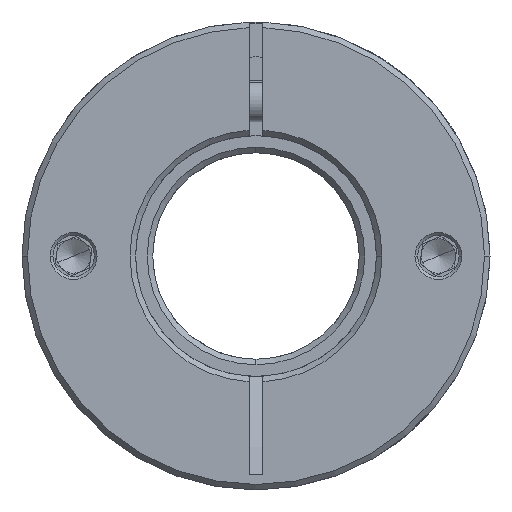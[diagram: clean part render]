
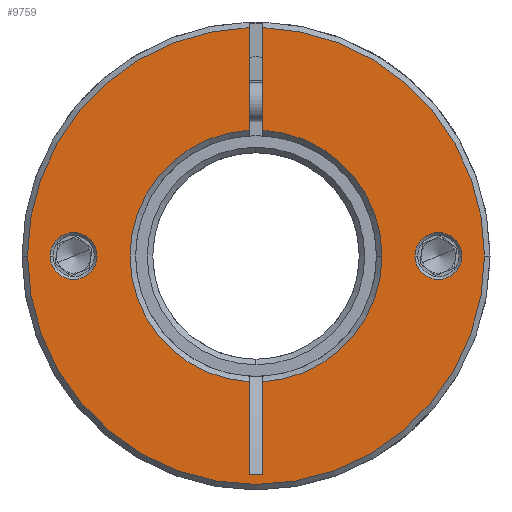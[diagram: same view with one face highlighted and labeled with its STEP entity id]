
A CAD part, front view. The second image highlights one B-rep face of the part: STEP entity #9759.
In plain terms, the highlighted planar face has unit normal (0, -1, 0).
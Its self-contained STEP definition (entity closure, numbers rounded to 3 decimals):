
#17 = CARTESIAN_POINT ( 'NONE',  ( -1.735, -47.045, 68. ) ) ;
#277 = VERTEX_POINT ( 'NONE', #6506 ) ;
#320 = EDGE_CURVE ( 'NONE', #7301, #5297, #2536, .T. ) ;
#334 = AXIS2_PLACEMENT_3D ( 'NONE', #10959, #10787, #4607 ) ;
#338 = VECTOR ( 'NONE', #10484, 1000. ) ;
#340 = VECTOR ( 'NONE', #11423, 1000. ) ;
#459 = VERTEX_POINT ( 'NONE', #2656 ) ;
#944 = CARTESIAN_POINT ( 'NONE',  ( -2.735, -47.045, 68. ) ) ;
#972 = CARTESIAN_POINT ( 'NONE',  ( -2.735, -47.045, 68. ) ) ;
#1068 = DIRECTION ( 'NONE',  ( 0., 1., 0. ) ) ;
#1089 = CIRCLE ( 'NONE', #9756, 3.4 ) ;
#1367 = VECTOR ( 'NONE', #9951, 1000. ) ;
#1375 = VERTEX_POINT ( 'NONE', #8357 ) ;
#1622 = VERTEX_POINT ( 'NONE', #9687 ) ;
#1726 = DIRECTION ( 'NONE',  ( 0., 1., 0. ) ) ;
#1783 = LINE ( 'NONE', #17, #340 ) ;
#1830 = EDGE_CURVE ( 'NONE', #1622, #3147, #12501, .T. ) ;
#2129 = CARTESIAN_POINT ( 'NONE',  ( -3.735, -47.045, 68. ) ) ;
#2133 = FACE_BOUND ( 'NONE', #4356, .T. ) ;
#2183 = CARTESIAN_POINT ( 'NONE',  ( -1.735, -47.045, 49.727 ) ) ;
#2260 = CARTESIAN_POINT ( 'NONE',  ( -3.735, -47.045, 49.727 ) ) ;
#2353 = VERTEX_POINT ( 'NONE', #4016 ) ;
#2365 = EDGE_CURVE ( 'NONE', #3147, #3191, #7555, .T. ) ;
#2396 = ORIENTED_EDGE ( 'NONE', *, *, #11121, .T. ) ;
#2521 = DIRECTION ( 'NONE',  ( 0., 1., 0. ) ) ;
#2536 = CIRCLE ( 'NONE', #4918, 3.4 ) ;
#2656 = CARTESIAN_POINT ( 'NONE',  ( -3.735, -47.045, 101.185 ) ) ;
#2721 = EDGE_CURVE ( 'NONE', #5317, #12907, #11883, .T. ) ;
#2785 = CIRCLE ( 'NONE', #10246, 33.2 ) ;
#2803 = VERTEX_POINT ( 'NONE', #2260 ) ;
#2992 = DIRECTION ( 'NONE',  ( 0., 1., 0. ) ) ;
#3072 = CARTESIAN_POINT ( 'NONE',  ( -29.235, -47.045, 68. ) ) ;
#3147 = VERTEX_POINT ( 'NONE', #9109 ) ;
#3191 = VERTEX_POINT ( 'NONE', #2183 ) ;
#3208 = DIRECTION ( 'NONE',  ( 0., 1., 0. ) ) ;
#3215 = DIRECTION ( 'NONE',  ( -1., 0., 0. ) ) ;
#3228 = EDGE_CURVE ( 'NONE', #2803, #6246, #9000, .T. ) ;
#3523 = EDGE_CURVE ( 'NONE', #3191, #9574, #12345, .T. ) ;
#3548 = ORIENTED_EDGE ( 'NONE', *, *, #2365, .T. ) ;
#3700 = CARTESIAN_POINT ( 'NONE',  ( 30.465, -47.045, 68. ) ) ;
#3715 = EDGE_LOOP ( 'NONE', ( #2396, #4382 ) ) ;
#3784 = ORIENTED_EDGE ( 'NONE', *, *, #7554, .T. ) ;
#3927 = CARTESIAN_POINT ( 'NONE',  ( -2.735, -47.045, 68. ) ) ;
#4016 = CARTESIAN_POINT ( 'NONE',  ( -25.835, -47.045, 68. ) ) ;
#4068 = CARTESIAN_POINT ( 'NONE',  ( -2.735, -47.045, 68. ) ) ;
#4244 = CARTESIAN_POINT ( 'NONE',  ( -2.735, -47.045, 68. ) ) ;
#4266 = CARTESIAN_POINT ( 'NONE',  ( -3.735, -47.045, 86.273 ) ) ;
#4278 = LINE ( 'NONE', #6364, #10897 ) ;
#4356 = EDGE_LOOP ( 'NONE', ( #5825, #12184 ) ) ;
#4382 = ORIENTED_EDGE ( 'NONE', *, *, #11544, .T. ) ;
#4434 = CARTESIAN_POINT ( 'NONE',  ( -2.735, -47.045, 68. ) ) ;
#4569 = DIRECTION ( 'NONE',  ( 1., 0., 0. ) ) ;
#4607 = DIRECTION ( 'NONE',  ( 1., 0., 0. ) ) ;
#4918 = AXIS2_PLACEMENT_3D ( 'NONE', #12790, #2521, #4569 ) ;
#5113 = DIRECTION ( 'NONE',  ( 1., 0., 0. ) ) ;
#5281 = AXIS2_PLACEMENT_3D ( 'NONE', #972, #2992, #5113 ) ;
#5297 = VERTEX_POINT ( 'NONE', #12856 ) ;
#5317 = VERTEX_POINT ( 'NONE', #10720 ) ;
#5366 = DIRECTION ( 'NONE',  ( 0., 0., -1. ) ) ;
#5484 = DIRECTION ( 'NONE',  ( 0., -1., 0. ) ) ;
#5825 = ORIENTED_EDGE ( 'NONE', *, *, #320, .T. ) ;
#5830 = AXIS2_PLACEMENT_3D ( 'NONE', #3072, #13218, #7091 ) ;
#5890 = ORIENTED_EDGE ( 'NONE', *, *, #3523, .T. ) ;
#6164 = EDGE_CURVE ( 'NONE', #8739, #1622, #1783, .T. ) ;
#6191 = VECTOR ( 'NONE', #5366, 1000. ) ;
#6246 = VERTEX_POINT ( 'NONE', #4266 ) ;
#6340 = CARTESIAN_POINT ( 'NONE',  ( -3.735, -47.045, 68. ) ) ;
#6343 = LINE ( 'NONE', #6340, #6191 ) ;
#6364 = CARTESIAN_POINT ( 'NONE',  ( -3.735, -47.045, 36.279 ) ) ;
#6465 = DIRECTION ( 'NONE',  ( 1., 0., 0. ) ) ;
#6506 = CARTESIAN_POINT ( 'NONE',  ( -32.635, -47.045, 68. ) ) ;
#6700 = ORIENTED_EDGE ( 'NONE', *, *, #3228, .T. ) ;
#6791 = ORIENTED_EDGE ( 'NONE', *, *, #10619, .T. ) ;
#7091 = DIRECTION ( 'NONE',  ( 1., 0., 0. ) ) ;
#7299 = LINE ( 'NONE', #2129, #338 ) ;
#7301 = VERTEX_POINT ( 'NONE', #11884 ) ;
#7487 = CARTESIAN_POINT ( 'NONE',  ( 23.765, -47.045, 68. ) ) ;
#7554 = EDGE_CURVE ( 'NONE', #459, #5317, #11434, .T. ) ;
#7555 = CIRCLE ( 'NONE', #5281, 18.3 ) ;
#7559 = CARTESIAN_POINT ( 'NONE',  ( -1.735, -47.045, 101.185 ) ) ;
#7815 = CARTESIAN_POINT ( 'NONE',  ( -1.735, -47.045, 68. ) ) ;
#7855 = EDGE_CURVE ( 'NONE', #5297, #7301, #1089, .T. ) ;
#7898 = CARTESIAN_POINT ( 'NONE',  ( -29.235, -47.045, 68. ) ) ;
#7954 = CIRCLE ( 'NONE', #11682, 3.4 ) ;
#8001 = PLANE ( 'NONE',  #13337 ) ;
#8099 = DIRECTION ( 'NONE',  ( 0., -1., 0. ) ) ;
#8320 = AXIS2_PLACEMENT_3D ( 'NONE', #4068, #13156, #9150 ) ;
#8357 = CARTESIAN_POINT ( 'NONE',  ( -3.735, -47.045, 36.279 ) ) ;
#8477 = ORIENTED_EDGE ( 'NONE', *, *, #9495, .T. ) ;
#8542 = DIRECTION ( 'NONE',  ( 1., 0., 0. ) ) ;
#8739 = VERTEX_POINT ( 'NONE', #7559 ) ;
#8799 = FACE_OUTER_BOUND ( 'NONE', #10293, .T. ) ;
#9000 = CIRCLE ( 'NONE', #12774, 18.3 ) ;
#9109 = CARTESIAN_POINT ( 'NONE',  ( 15.565, -47.045, 68. ) ) ;
#9150 = DIRECTION ( 'NONE',  ( 1., 0., 0. ) ) ;
#9448 = DIRECTION ( 'NONE',  ( 1., 0., 0. ) ) ;
#9495 = EDGE_CURVE ( 'NONE', #9574, #1375, #4278, .T. ) ;
#9574 = VERTEX_POINT ( 'NONE', #10790 ) ;
#9687 = CARTESIAN_POINT ( 'NONE',  ( -1.735, -47.045, 86.273 ) ) ;
#9756 = AXIS2_PLACEMENT_3D ( 'NONE', #7487, #3208, #8542 ) ;
#9759 = ADVANCED_FACE ( 'NONE', ( #2133, #11835, #8799 ), #8001, .T. ) ;
#9951 = DIRECTION ( 'NONE',  ( 0., 0., -1. ) ) ;
#10246 = AXIS2_PLACEMENT_3D ( 'NONE', #944, #12314, #10414 ) ;
#10261 = ORIENTED_EDGE ( 'NONE', *, *, #10356, .F. ) ;
#10293 = EDGE_LOOP ( 'NONE', ( #10261, #3784, #10915, #6791, #11264, #11051, #3548, #5890, #8477, #11592, #6700 ) ) ;
#10356 = EDGE_CURVE ( 'NONE', #459, #6246, #6343, .T. ) ;
#10414 = DIRECTION ( 'NONE',  ( 1., 0., 0. ) ) ;
#10484 = DIRECTION ( 'NONE',  ( 0., 0., -1. ) ) ;
#10619 = EDGE_CURVE ( 'NONE', #12907, #8739, #2785, .T. ) ;
#10720 = CARTESIAN_POINT ( 'NONE',  ( -35.935, -47.045, 68. ) ) ;
#10734 = DIRECTION ( 'NONE',  ( 1., 0., 0. ) ) ;
#10787 = DIRECTION ( 'NONE',  ( 0., -1., 0. ) ) ;
#10790 = CARTESIAN_POINT ( 'NONE',  ( -1.735, -47.045, 36.279 ) ) ;
#10897 = VECTOR ( 'NONE', #3215, 1000. ) ;
#10915 = ORIENTED_EDGE ( 'NONE', *, *, #2721, .T. ) ;
#10959 = CARTESIAN_POINT ( 'NONE',  ( -2.735, -47.045, 68. ) ) ;
#11051 = ORIENTED_EDGE ( 'NONE', *, *, #1830, .T. ) ;
#11091 = DIRECTION ( 'NONE',  ( 1., 0., 0. ) ) ;
#11121 = EDGE_CURVE ( 'NONE', #2353, #277, #11806, .T. ) ;
#11264 = ORIENTED_EDGE ( 'NONE', *, *, #6164, .T. ) ;
#11271 = EDGE_CURVE ( 'NONE', #2803, #1375, #7299, .T. ) ;
#11423 = DIRECTION ( 'NONE',  ( 0., 0., -1. ) ) ;
#11434 = CIRCLE ( 'NONE', #12068, 33.2 ) ;
#11544 = EDGE_CURVE ( 'NONE', #277, #2353, #7954, .T. ) ;
#11592 = ORIENTED_EDGE ( 'NONE', *, *, #11271, .F. ) ;
#11682 = AXIS2_PLACEMENT_3D ( 'NONE', #7898, #1726, #10734 ) ;
#11806 = CIRCLE ( 'NONE', #5830, 3.4 ) ;
#11835 = FACE_BOUND ( 'NONE', #3715, .T. ) ;
#11883 = CIRCLE ( 'NONE', #334, 33.2 ) ;
#11884 = CARTESIAN_POINT ( 'NONE',  ( 27.165, -47.045, 68. ) ) ;
#12068 = AXIS2_PLACEMENT_3D ( 'NONE', #4434, #5484, #6465 ) ;
#12184 = ORIENTED_EDGE ( 'NONE', *, *, #7855, .T. ) ;
#12314 = DIRECTION ( 'NONE',  ( 0., -1., 0. ) ) ;
#12345 = LINE ( 'NONE', #7815, #1367 ) ;
#12501 = CIRCLE ( 'NONE', #8320, 18.3 ) ;
#12774 = AXIS2_PLACEMENT_3D ( 'NONE', #4244, #1068, #9448 ) ;
#12790 = CARTESIAN_POINT ( 'NONE',  ( 23.765, -47.045, 68. ) ) ;
#12856 = CARTESIAN_POINT ( 'NONE',  ( 20.365, -47.045, 68. ) ) ;
#12907 = VERTEX_POINT ( 'NONE', #3700 ) ;
#13156 = DIRECTION ( 'NONE',  ( 0., 1., 0. ) ) ;
#13218 = DIRECTION ( 'NONE',  ( 0., 1., 0. ) ) ;
#13337 = AXIS2_PLACEMENT_3D ( 'NONE', #3927, #8099, #11091 ) ;
